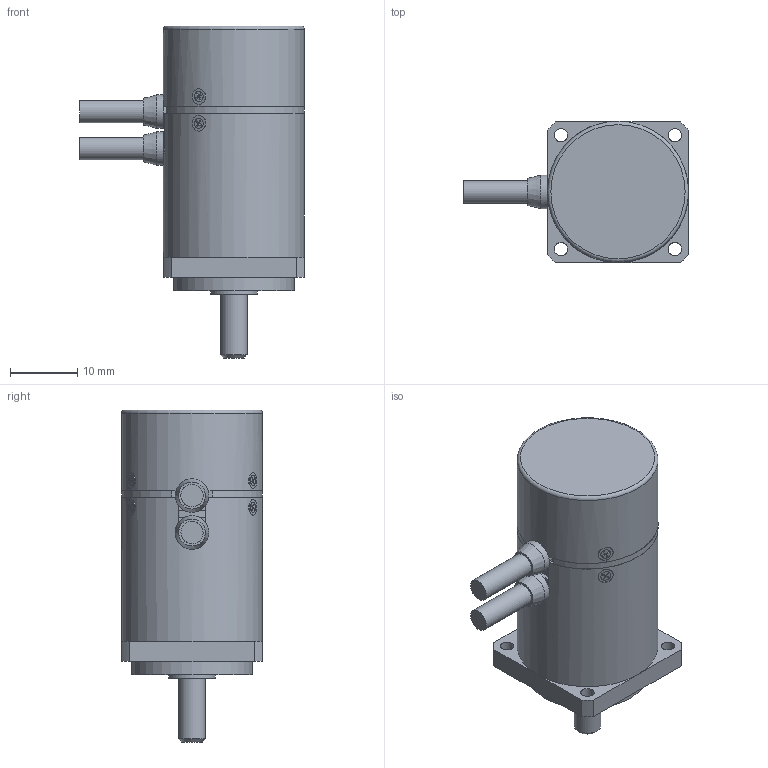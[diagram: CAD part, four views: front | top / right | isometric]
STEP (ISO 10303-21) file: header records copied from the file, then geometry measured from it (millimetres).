
FILE_DESCRIPTION(('STEP AP214'),'1');
FILE_NAME('MDS-2012.stp','2017-10-10T07:02:32',(' '),(' '),'Spatial InterOp 3D',' ',' ');
FILE_SCHEMA(('automotive_design'));
Length unit declared in the file: millimetre
Products named in the file (11): ケーブル; タッピングネジ M1.4x2.2; サラコネジ M1.4x2.5; ｱﾝｷﾞｭﾗﾍﾞｱﾘﾝｸﾞ MTA04-11; ｱﾝｷﾞｭﾗﾍﾞｱﾘﾝｸﾞ MTA05-13; ブッシュ; カバー_S; ベース; シャフト_S2012; ケース_2012
Assembly tree (16 placements, depth 2):
  (unnamed)
    ケーブル  x2
    タッピングネジ M1.4x2.2  x3
    サラコネジ M1.4x2.5  x3
    ｱﾝｷﾞｭﾗﾍﾞｱﾘﾝｸﾞ MTA04-11
    ｱﾝｷﾞｭﾗﾍﾞｱﾘﾝｸﾞ MTA05-13
    ブッシュ  x2
    カバー_S
    ベース
    シャフト_S2012
    ケース_2012
Bounding box: 33.5 x 21 x 49.45 mm (x, y, z)
Volume: 5601.2 mm3; surface area: 10919.9 mm2
Topology: 17 solids, 18 shells, 349 faces, 806 edges, 521 vertices
Faces by surface type: plane 200, cylinder 110, cone 29, torus 10
Full cylindrical faces by diameter (mm): 0.75 x6, 1.1 x6, 1.4 x12, 1.5 x6, 2 x4, 2.3 x6, 3.3 x4, 3.4 x1, 4 x4, 4.2 x1, 5 x4, 6.2 x4, 7 x1, 7.2 x3, 7.3 x1, 7.6 x1, 8.1 x1, 8.6 x1, 9.5 x5, 9.9 x1, 11 x2, 11.2 x1, 11.3 x3, 11.5 x1, 13 x2, 16 x1, 18 x1, 18.5 x1, 19.4 x1, 19.5 x1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
Entity records: 9152 total; most frequent: CARTESIAN_POINT 1689, DIRECTION 1124, ORIENTED_EDGE 872, AXIS2_PLACEMENT_3D 458, EDGE_CURVE 436, EDGE_LOOP 416, VERTEX_POINT 341, FACE_OUTER_BOUND 334
